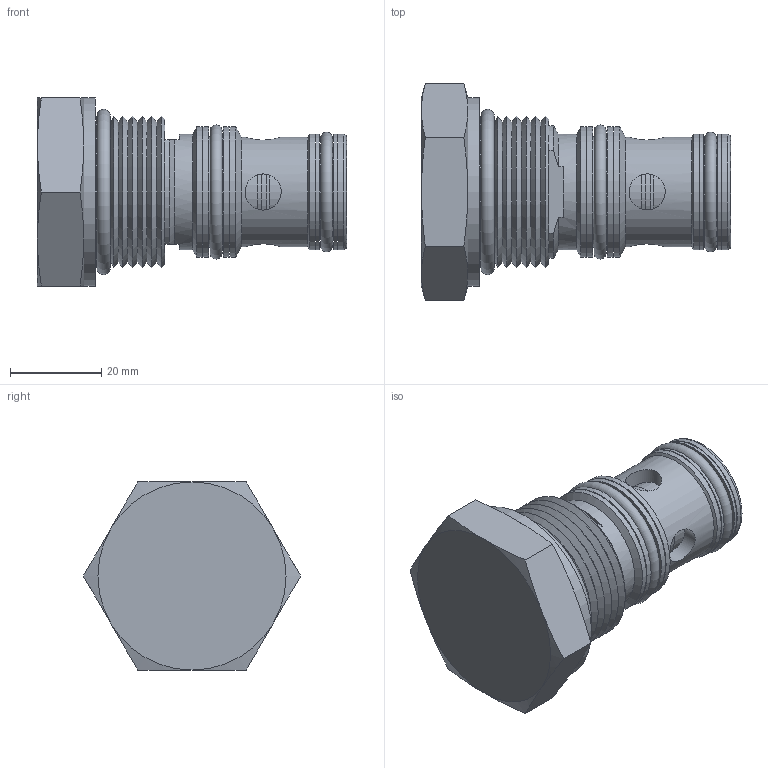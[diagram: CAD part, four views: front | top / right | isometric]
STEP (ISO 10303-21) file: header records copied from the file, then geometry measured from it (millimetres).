
FILE_DESCRIPTION(/* description */ ('HSL-PLA-0P-0020'),/* implementation_level */ '2;1');
FILE_NAME(/* name */ 'P:\EARS\EAR16xx\EAR1683 - catalog pages changes\Group1_Distribution 11_22_22\RTeck Agency_Tom\_step files\HSLPLA00.stp',/* time_stamp */ '2023-01-03T13:19:09-06:00',/* author */ ('Michael'),/* organization */ (''),/* preprocessor_version */ 'ST-DEVELOPER v17.2',/* originating_system */ 'Autodesk Inventor 2019',/* authorisation */ '');
FILE_SCHEMA (('AUTOMOTIVE_DESIGN { 1 0 10303 214 3 1 1 }'));
Length unit declared in the file: inch
Products named in the file (1): 87410038
Bounding box: 67.82 x 47.66 x 41.27 mm (x, y, z)
Volume: 48624.2 mm3; surface area: 17417.3 mm2
Topology: 8 solids, 8 shells, 110 faces, 296 edges, 210 vertices
Faces by surface type: plane 36, cylinder 35, cone 33, torus 6
Full cylindrical faces by diameter (mm): 7.925 x4, 9.525 x2, 10.109 x1, 15.875 x1, 15.922 x2, 16.51 x1, 17.446 x3, 17.479 x1, 21.006 x1, 21.031 x2, 24.13 x1, 24.181 x1, 24.206 x2, 25.349 x4, 25.4 x1, 28.524 x4, 30.328 x1, 41.275 x1
Entity records: 4029 total; most frequent: CARTESIAN_POINT 947, DIRECTION 650, ORIENTED_EDGE 592, EDGE_CURVE 296, AXIS2_PLACEMENT_3D 289, VERTEX_POINT 210, CIRCLE 178, EDGE_LOOP 140
